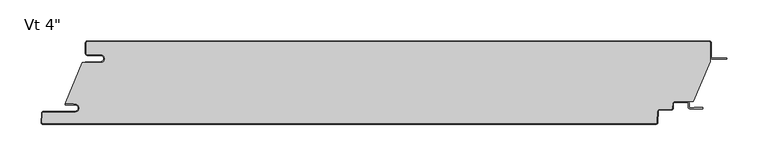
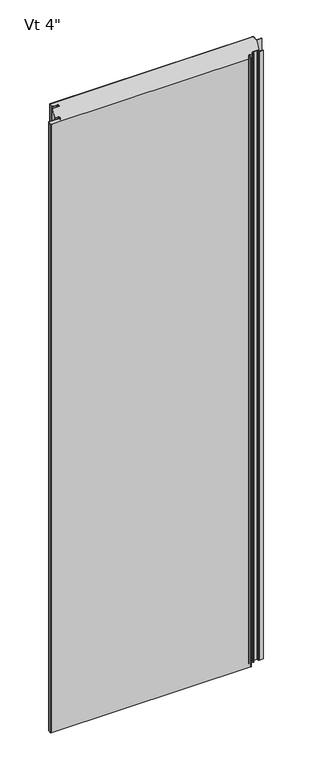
"""IFC4 building model written with IfcOpenShell, lengths in millimetres: plate geometry."""

from ifc_helpers import new_model, si_unit, point, frame, frame_2d, origin, origin_with_axes, place, context, project, spatial, polyline, circle_curve, ellipse_curve, trimmed, segment, composite_curve, outline, extrude, source, transform, mapped, element, save
from ifc_brep_helpers import plane_surface, cylinder_surface, revolved_surface, extruded_surface, advanced_brep


def plate_11812fda(model_context):
    return source(origin(), model_context, "Body", "SolidModel", [
        extrude(outline(composite_curve([segment(polyline([(-361.94375, -16.4625), (-377.81875, -16.4625)]), True, "CONTINUOUS"), segment(trimmed(circle_curve(frame_2d((-377.81875, -15.08125)), 1.38125), [point((-377.81875, -16.4625))], [point((-379.2, -15.08125))], False, "CARTESIAN"), True, "CONTINUOUS"), segment(polyline([(-379.2, -15.08125), (-379.2, -2.38125)]), True, "CONTINUOUS"), segment(trimmed(circle_curve(frame_2d((-377.81875, -2.38125)), 1.38125), [point((-379.2, -2.38125))], [point((-377.81875, -1.0))], False, "CARTESIAN"), True, "CONTINUOUS"), segment(polyline([(-377.81875, -1.0), (377.83125, -1.0)]), True, "CONTINUOUS"), segment(trimmed(circle_curve(frame_2d((377.83125, -2.38125)), 1.38125), [point((377.83125, -1.0))], [point((379.2125, -2.38125))], False, "CARTESIAN"), True, "CONTINUOUS"), segment(polyline([(379.2125, -2.38125), (379.2125, -24.9057308), (358.3955434, -73.6125), (335.9540783, -73.6125)]), True, "CONTINUOUS"), segment(trimmed(circle_curve(frame_2d((335.9540783, -76.2)), 2.5875), [point((335.9540783, -73.6125))], [point((333.3701244, -76.0645807))], True, "CARTESIAN"), True, "CONTINUOUS"), segment(polyline([(333.3701244, -76.0645807), (333.0680481, -81.828539)]), True, "CONTINUOUS"), segment(trimmed(circle_curve(frame_2d((331.6886911, -81.75625)), 1.38125), [point((333.0680481, -81.828539))], [point((331.6886911, -83.1375))], False, "CARTESIAN"), True, "CONTINUOUS"), segment(polyline([(331.6886911, -83.1375), (317.5323847, -83.1375)]), True, "CONTINUOUS"), segment(trimmed(circle_curve(frame_2d((317.5323847, -85.725)), 2.5875), [point((317.5323847, -83.1375))], [point((314.9484307, -85.5895807))], True, "CARTESIAN"), True, "CONTINUOUS"), segment(polyline([(314.9484307, -85.5895807), (314.2303677, -99.291039)]), True, "CONTINUOUS"), segment(trimmed(circle_curve(frame_2d((312.8510107, -99.21875)), 1.38125), [point((314.2303677, -99.291039))], [point((312.8510107, -100.6))], False, "CARTESIAN"), True, "CONTINUOUS"), segment(polyline([(312.8510107, -100.6), (-431.6799535, -100.6)]), True, "CONTINUOUS"), segment(trimmed(circle_curve(frame_2d((-431.6799535, -99.21875)), 1.38125), [point((-431.6799535, -100.6))], [point((-433.0593106, -99.146461))], False, "CARTESIAN"), True, "CONTINUOUS"), segment(polyline([(-433.0593106, -99.146461), (-432.4769291, -88.033961)]), True, "CONTINUOUS"), segment(trimmed(circle_curve(frame_2d((-431.0975721, -88.10625)), 1.38125), [point((-432.4769291, -88.033961))], [point((-431.0975721, -86.725))], False, "CARTESIAN"), True, "CONTINUOUS"), segment(polyline([(-431.0975721, -86.725), (-392.9142674, -86.725)]), True, "CONTINUOUS"), segment(trimmed(circle_curve(frame_2d((-392.9142674, -81.75625)), 4.96875), [point((-392.9142674, -86.725))], [point((-392.9142674, -76.7875))], True, "CARTESIAN"), True, "CONTINUOUS"), segment(polyline([(-392.9142674, -76.7875), (-394.5017674, -76.99375), (-394.5017674, -76.2), (-404.0125, -76.2), (-404.0125, -74.6157227), (-384.1260922, -26.4), (-361.94375, -26.4)]), True, "CONTINUOUS"), segment(trimmed(circle_curve(frame_2d((-361.94375, -21.43125)), 4.96875), [point((-361.94375, -26.4))], [point((-361.94375, -16.4625))], True, "CARTESIAN"), True, "CONTINUOUS")], self_intersect=False)), origin_with_axes(), (0.0, 0.0, 1.0), 2400.0),
        extrude(outline(composite_curve([segment(polyline([(-380.2, -25.4), (-361.94375, -25.4)]), True, "CONTINUOUS"), segment(trimmed(circle_curve(frame_2d((-361.94375, -21.43125)), 3.96875), [point((-361.94375, -25.4))], [point((-361.94375, -17.4625))], True, "CARTESIAN"), True, "CONTINUOUS"), segment(polyline([(-361.94375, -17.4625), (-377.81875, -17.4625)]), True, "CONTINUOUS"), segment(trimmed(circle_curve(frame_2d((-377.81875, -15.08125)), 2.38125), [point((-377.81875, -17.4625))], [point((-380.2, -15.08125))], False, "CARTESIAN"), True, "CONTINUOUS"), segment(polyline([(-380.2, -15.08125), (-380.2, -2.38125)]), True, "CONTINUOUS"), segment(trimmed(circle_curve(frame_2d((-377.81875, -2.38125)), 2.38125), [point((-380.2, -2.38125))], [point((-377.81875, 0.0))], False, "CARTESIAN"), True, "CONTINUOUS"), segment(polyline([(-377.81875, 0.0), (377.83125, 0.0)]), True, "CONTINUOUS"), segment(trimmed(circle_curve(frame_2d((377.83125, -2.38125)), 2.38125), [point((377.83125, 0.0))], [point((380.2125, -2.38125))], False, "CARTESIAN"), True, "CONTINUOUS"), segment(polyline([(380.2125, -2.38125), (380.2125, -19.446875)]), True, "CONTINUOUS"), segment(trimmed(circle_curve(frame_2d((381.8, -19.446875)), 1.5875), [point((380.2125, -19.446875))], [point((381.8, -21.034375))], True, "CARTESIAN"), True, "CONTINUOUS"), segment(polyline([(381.8, -21.034375), (399.2625, -21.034375), (399.2625, -22.034375), (381.8, -22.034375)]), True, "CONTINUOUS"), segment(trimmed(circle_curve(frame_2d((381.8, -19.446875)), 2.5875), [point((381.8, -22.034375))], [point((379.2125, -19.446875))], False, "CARTESIAN"), True, "CONTINUOUS"), segment(polyline([(379.2125, -19.446875), (379.2125, -2.38125)]), True, "CONTINUOUS"), segment(trimmed(circle_curve(frame_2d((377.83125, -2.38125)), 1.38125), [point((379.2125, -2.38125))], [point((377.83125, -1.0))], True, "CARTESIAN"), True, "CONTINUOUS"), segment(polyline([(377.83125, -1.0), (-377.81875, -1.0)]), True, "CONTINUOUS"), segment(trimmed(circle_curve(frame_2d((-377.81875, -2.38125)), 1.38125), [point((-377.81875, -1.0))], [point((-379.2, -2.38125))], True, "CARTESIAN"), True, "CONTINUOUS"), segment(polyline([(-379.2, -2.38125), (-379.2, -15.08125)]), True, "CONTINUOUS"), segment(trimmed(circle_curve(frame_2d((-377.81875, -15.08125)), 1.38125), [point((-379.2, -15.08125))], [point((-377.81875, -16.4625))], True, "CARTESIAN"), True, "CONTINUOUS"), segment(polyline([(-377.81875, -16.4625), (-361.94375, -16.4625)]), True, "CONTINUOUS"), segment(trimmed(circle_curve(frame_2d((-361.94375, -21.43125)), 4.96875), [point((-361.94375, -16.4625))], [point((-361.94375, -26.4))], False, "CARTESIAN"), True, "CONTINUOUS"), segment(polyline([(-361.94375, -26.4), (-380.2, -26.4), (-380.2, -25.4)]), True, "CONTINUOUS")], self_intersect=False)), origin_with_axes(), (0.0, 0.0, 1.0), 2400.0),
        advanced_brep(
        [(-404.2252049, -76.2, 2400.0), (-404.2252049, -77.7875, 2400.0), (-392.9142674, -77.7875, 2400.0), (-392.9142674, -85.725, 2400.0), (-431.0975721, -85.725, 2400.0), (-433.4755586, -87.981625, 2400.0), (-434.0579401, -99.094125, 2400.0), (-431.6799535, -101.6, 2400.0), (312.8510107, -101.6, 2400.0), (315.2289973, -99.343375, 2400.0), (315.9470603, -85.6419167, 2400.0), (317.5323847, -84.1375, 2400.0), (331.6886911, -84.1375, 2400.0), (334.0666776, -81.880875, 2400.0), (334.3687539, -76.1169167, 2400.0), (335.9540783, -74.6125, 2400.0), (350.8294826, -74.6125, 2400.0), (352.4169826, -76.2, 2400.0), (352.4169826, -80.3671875, 2400.0), (354.7982326, -82.7484375, 2400.0), (369.2898532, -82.7484375, 2400.0), (369.2898532, -80.9546875, 2400.0), (359.5607326, -80.9546875, 2400.0), (359.5607326, -81.7484375, 2400.0), (354.7982326, -81.7484375, 2400.0), (353.4169826, -80.3671875, 2400.0), (353.4169826, -76.2, 2400.0), (350.8294826, -73.6125, 2400.0), (335.9540783, -73.6125, 2400.0), (333.3701244, -76.0645807, 2400.0), (333.0680481, -81.828539, 2400.0), (331.6886911, -83.1375, 2400.0), (317.5323847, -83.1375, 2400.0), (314.9484307, -85.5895807, 2400.0), (314.2303677, -99.291039, 2400.0), (312.8510107, -100.6, 2400.0), (-431.6799535, -100.6, 2400.0), (-433.0593106, -99.146461, 2400.0), (-432.4769291, -88.033961, 2400.0), (-431.0975721, -86.725, 2400.0), (-392.9142674, -86.725, 2400.0), (-392.9142674, -76.7875, 2400.0), (-394.5017674, -76.99375, 2400.0), (-394.5017674, -76.2, 2400.0), (-404.2252049, -76.2, 0.0), (-394.5017674, -76.2, 0.0), (-394.5017674, -76.99375, 0.0), (-392.9142674, -76.7875, 0.0), (-392.9142674, -86.725, 0.0), (-431.0975721, -86.725, 0.0), (-432.4769291, -88.033961, 0.0), (-433.0593106, -99.146461, 0.0), (-431.6799535, -100.6, 0.0), (312.8510107, -100.6, 0.0), (314.2303677, -99.291039, 0.0), (314.9484307, -85.5895807, 0.0), (317.5323847, -83.1375, 0.0), (331.6886911, -83.1375, 0.0), (333.0680481, -81.828539, 0.0), (333.3701244, -76.0645807, 0.0), (335.9540783, -73.6125, 0.0), (350.8294826, -73.6125, 0.0), (353.4169826, -76.2, 0.0), (353.4169826, -80.3671875, 0.0), (354.7982326, -81.7484375, 0.0), (359.5607326, -81.7484375, 0.0), (359.5607326, -80.9546875, 0.0), (369.2898532, -80.9546875, 0.0), (369.2898532, -82.7484375, 0.0), (354.7982326, -82.7484375, 0.0), (352.4169826, -80.3671875, 0.0), (352.4169826, -76.2, 0.0), (350.8294826, -74.6125, 0.0), (335.9540783, -74.6125, 0.0), (334.3687539, -76.1169167, 0.0), (334.0666776, -81.880875, 0.0), (331.6886911, -84.1375, 0.0), (317.5323847, -84.1375, 0.0), (315.9470603, -85.6419167, 0.0), (315.2289973, -99.343375, 0.0), (312.8510107, -101.6, 0.0), (-431.6799535, -101.6, 0.0), (-434.0579401, -99.094125, 0.0), (-433.4755586, -87.981625, 0.0), (-431.0975721, -85.725, 0.0), (-392.9142674, -85.725, 0.0), (-392.9142674, -77.7875, 0.0), (-404.2252049, -77.7875, 0.0)],
        [
            (0, 1, circle_curve(frame((-404.2252049, -76.99375, 2400.0), z_axis=(0.0, 0.0, 1.0), x_axis=(1.0, 0.0, 0.0)), 0.79375)),
            (1, 2),
            (2, 3, circle_curve(frame((-392.9142674, -81.75625, 2400.0), z_axis=(0.0, 0.0, -1.0), x_axis=(1.0, 0.0, 0.0)), 3.96875)),
            (3, 4),
            (4, 5, circle_curve(frame((-431.0975721, -88.10625, 2400.0), z_axis=(0.0, 0.0, 1.0), x_axis=(1.0, 0.0, 0.0)), 2.38125)),
            (5, 6),
            (6, 7, circle_curve(frame((-431.6799535, -99.21875, 2400.0), z_axis=(0.0, 0.0, 1.0), x_axis=(1.0, 0.0, 0.0)), 2.38125)),
            (7, 8),
            (8, 9, circle_curve(frame((312.8510107, -99.21875, 2400.0), z_axis=(0.0, 0.0, 1.0), x_axis=(1.0, 0.0, 0.0)), 2.38125)),
            (9, 10),
            (10, 11, circle_curve(frame((317.5323847, -85.725, 2400.0), z_axis=(0.0, 0.0, -1.0), x_axis=(1.0, 0.0, 0.0)), 1.5875)),
            (11, 12),
            (12, 13, circle_curve(frame((331.6886911, -81.75625, 2400.0), z_axis=(0.0, 0.0, 1.0), x_axis=(1.0, 0.0, 0.0)), 2.38125)),
            (13, 14),
            (14, 15, circle_curve(frame((335.9540783, -76.2, 2400.0), z_axis=(0.0, 0.0, -1.0), x_axis=(1.0, 0.0, 0.0)), 1.5875)),
            (15, 16),
            (16, 17, circle_curve(frame((350.8294826, -76.2, 2400.0), z_axis=(0.0, 0.0, -1.0), x_axis=(1.0, 0.0, 0.0)), 1.5875)),
            (17, 18),
            (18, 19, circle_curve(frame((354.7982326, -80.3671875, 2400.0), z_axis=(0.0, 0.0, 1.0), x_axis=(1.0, 0.0, 0.0)), 2.38125)),
            (19, 20),
            (20, 21, ellipse_curve(frame((369.2898532, -81.8515625, 2400.0), z_axis=(0.0, 0.0, 1.0), x_axis=(0.0, 1.0, 0.0)), 0.896875, 0.7852275)),
            (21, 22),
            (22, 23),
            (23, 24),
            (24, 25, circle_curve(frame((354.7982326, -80.3671875, 2400.0), z_axis=(0.0, 0.0, -1.0), x_axis=(1.0, 0.0, 0.0)), 1.38125)),
            (25, 26),
            (26, 27, circle_curve(frame((350.8294826, -76.2, 2400.0), z_axis=(0.0, 0.0, 1.0), x_axis=(1.0, 0.0, 0.0)), 2.5875)),
            (27, 28),
            (28, 29, circle_curve(frame((335.9540783, -76.2, 2400.0), z_axis=(0.0, 0.0, 1.0), x_axis=(1.0, 0.0, 0.0)), 2.5875)),
            (29, 30),
            (30, 31, circle_curve(frame((331.6886911, -81.75625, 2400.0), z_axis=(0.0, 0.0, -1.0), x_axis=(1.0, 0.0, 0.0)), 1.38125)),
            (31, 32),
            (32, 33, circle_curve(frame((317.5323847, -85.725, 2400.0), z_axis=(0.0, 0.0, 1.0), x_axis=(1.0, 0.0, 0.0)), 2.5875)),
            (33, 34),
            (34, 35, circle_curve(frame((312.8510107, -99.21875, 2400.0), z_axis=(0.0, 0.0, -1.0), x_axis=(1.0, 0.0, 0.0)), 1.38125)),
            (35, 36),
            (36, 37, circle_curve(frame((-431.6799535, -99.21875, 2400.0), z_axis=(0.0, 0.0, -1.0), x_axis=(1.0, 0.0, 0.0)), 1.38125)),
            (37, 38),
            (38, 39, circle_curve(frame((-431.0975721, -88.10625, 2400.0), z_axis=(0.0, 0.0, -1.0), x_axis=(1.0, 0.0, 0.0)), 1.38125)),
            (39, 40),
            (40, 41, circle_curve(frame((-392.9142674, -81.75625, 2400.0), z_axis=(0.0, 0.0, 1.0), x_axis=(1.0, 0.0, 0.0)), 4.96875)),
            (41, 42),
            (42, 43),
            (43, 0),
            (44, 45),
            (45, 46),
            (46, 47),
            (47, 48, circle_curve(frame((-392.9142674, -81.75625, 0.0), z_axis=(0.0, 0.0, -1.0), x_axis=(1.0, 0.0, 0.0)), 4.96875)),
            (48, 49),
            (49, 50, circle_curve(frame((-431.0975721, -88.10625, 0.0), z_axis=(0.0, 0.0, 1.0), x_axis=(1.0, 0.0, 0.0)), 1.38125)),
            (50, 51),
            (51, 52, circle_curve(frame((-431.6799535, -99.21875, 0.0), z_axis=(0.0, 0.0, 1.0), x_axis=(1.0, 0.0, 0.0)), 1.38125)),
            (52, 53),
            (53, 54, circle_curve(frame((312.8510107, -99.21875, 0.0), z_axis=(0.0, 0.0, 1.0), x_axis=(1.0, 0.0, 0.0)), 1.38125)),
            (54, 55),
            (55, 56, circle_curve(frame((317.5323847, -85.725, 0.0), z_axis=(0.0, 0.0, -1.0), x_axis=(1.0, 0.0, 0.0)), 2.5875)),
            (56, 57),
            (57, 58, circle_curve(frame((331.6886911, -81.75625, 0.0), z_axis=(0.0, 0.0, 1.0), x_axis=(1.0, 0.0, 0.0)), 1.38125)),
            (58, 59),
            (59, 60, circle_curve(frame((335.9540783, -76.2, 0.0), z_axis=(0.0, 0.0, -1.0), x_axis=(1.0, 0.0, 0.0)), 2.5875)),
            (60, 61),
            (61, 62, circle_curve(frame((350.8294826, -76.2, 0.0), z_axis=(0.0, 0.0, -1.0), x_axis=(1.0, 0.0, 0.0)), 2.5875)),
            (62, 63),
            (63, 64, circle_curve(frame((354.7982326, -80.3671875, 0.0), z_axis=(0.0, 0.0, 1.0), x_axis=(1.0, 0.0, 0.0)), 1.38125)),
            (64, 65),
            (65, 66),
            (66, 67),
            (67, 68, ellipse_curve(frame((369.2898532, -81.8515625, 0.0), z_axis=(0.0, 0.0, -1.0), x_axis=(0.0, 1.0, 0.0)), 0.896875, 0.7852275)),
            (68, 69),
            (69, 70, circle_curve(frame((354.7982326, -80.3671875, 0.0), z_axis=(0.0, 0.0, -1.0), x_axis=(1.0, 0.0, 0.0)), 2.38125)),
            (70, 71),
            (71, 72, circle_curve(frame((350.8294826, -76.2, 0.0), z_axis=(0.0, 0.0, 1.0), x_axis=(1.0, 0.0, 0.0)), 1.5875)),
            (72, 73),
            (73, 74, circle_curve(frame((335.9540783, -76.2, 0.0), z_axis=(0.0, 0.0, 1.0), x_axis=(1.0, 0.0, 0.0)), 1.5875)),
            (74, 75),
            (75, 76, circle_curve(frame((331.6886911, -81.75625, 0.0), z_axis=(0.0, 0.0, -1.0), x_axis=(1.0, 0.0, 0.0)), 2.38125)),
            (76, 77),
            (77, 78, circle_curve(frame((317.5323847, -85.725, 0.0), z_axis=(0.0, 0.0, 1.0), x_axis=(1.0, 0.0, 0.0)), 1.5875)),
            (78, 79),
            (79, 80, circle_curve(frame((312.8510107, -99.21875, 0.0), z_axis=(0.0, 0.0, -1.0), x_axis=(1.0, 0.0, 0.0)), 2.38125)),
            (80, 81),
            (81, 82, circle_curve(frame((-431.6799535, -99.21875, 0.0), z_axis=(0.0, 0.0, -1.0), x_axis=(1.0, 0.0, 0.0)), 2.38125)),
            (82, 83),
            (83, 84, circle_curve(frame((-431.0975721, -88.10625, 0.0), z_axis=(0.0, 0.0, -1.0), x_axis=(1.0, 0.0, 0.0)), 2.38125)),
            (84, 85),
            (85, 86, circle_curve(frame((-392.9142674, -81.75625, 0.0), z_axis=(0.0, 0.0, 1.0), x_axis=(1.0, 0.0, 0.0)), 3.96875)),
            (86, 87),
            (87, 44, circle_curve(frame((-404.2252049, -76.99375, 0.0), z_axis=(0.0, 0.0, -1.0), x_axis=(1.0, 0.0, 0.0)), 0.79375)),
            (43, 45),
            (44, 0),
            (87, 1),
            (86, 2),
            (85, 3),
            (84, 4),
            (83, 5),
            (82, 6),
            (81, 7),
            (80, 8),
            (79, 9),
            (78, 10),
            (77, 11),
            (76, 12),
            (75, 13),
            (74, 14),
            (73, 15),
            (38, 50),
            (49, 39),
            (33, 55),
            (54, 34),
            (32, 56),
            (31, 57),
            (30, 58),
            (29, 59),
            (28, 60),
            (23, 65),
            (64, 24),
            (63, 25),
            (62, 26),
            (72, 16),
            (71, 17),
            (70, 18),
            (69, 19),
            (68, 20),
            (27, 61),
            (48, 40),
            (47, 41),
            (42, 46),
            (22, 66),
            (21, 67),
            (37, 51),
            (36, 52),
            (35, 53),
        ],
        [
            plane_surface(frame((0.00625, -101.6, 2400.0), z_axis=(0.0, 0.0, 1.0), x_axis=(0.0, -1.0, 0.0))),
            plane_surface(frame((0.00625, -101.6, 0.0), z_axis=(0.0, 0.0, -1.0), x_axis=(0.0, -1.0, 0.0))),
            plane_surface(frame((-404.2252049, -76.2, 2400.0), z_axis=(0.0, 1.0, 0.0), x_axis=(0.0, 0.0, -1.0))),
            cylinder_surface(frame((-404.2252049, -76.99375, 2400.0), z_axis=(0.0, 0.0, 1.0), x_axis=(1.0, 0.0, 0.0)), 0.79375),
            plane_surface(frame((-392.9142674, -77.7875, 2400.0), z_axis=(0.0, -1.0, 0.0), x_axis=(0.0, 0.0, -1.0))),
            revolved_surface(polyline([(-388.9455174, -81.75625, 0.0), (-388.9455174, -81.75625, 2400.0)]), (-392.9142674, -81.75625, 2400.0), (0.0, 0.0, -1.0)),
            plane_surface(frame((-431.0975721, -85.725, 2400.0), z_axis=(0.0, 1.0, 0.0), x_axis=(0.0, 0.0, -1.0))),
            cylinder_surface(frame((-431.0975721, -88.10625, 2400.0), z_axis=(0.0, 0.0, 1.0), x_axis=(1.0, 0.0, 0.0)), 2.38125),
            plane_surface(frame((-434.0579401, -99.094125, 2400.0), z_axis=(-0.9986295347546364, 0.05233595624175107, 0.0), x_axis=(0.0, 0.0, -1.0))),
            cylinder_surface(frame((-431.6799535, -99.21875, 2400.0), z_axis=(0.0, 0.0, 1.0), x_axis=(1.0, 0.0, 0.0)), 2.38125),
            plane_surface(frame((312.8510107, -101.6, 2400.0), z_axis=(0.0, -1.0, 0.0), x_axis=(0.0, 0.0, -1.0))),
            cylinder_surface(frame((312.8510107, -99.21875, 2400.0), z_axis=(0.0, 0.0, 1.0), x_axis=(1.0, 0.0, 0.0)), 2.38125),
            plane_surface(frame((315.9470603, -85.6419167, 2400.0), z_axis=(0.9986295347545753, -0.05233595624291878, 0.0), x_axis=(0.0, 0.0, -1.0))),
            revolved_surface(polyline([(319.1198847, -85.725, 0.0), (319.1198847, -85.725, 2400.0)]), (317.5323847, -85.725, 2400.0), (0.0, 0.0, -1.0)),
            plane_surface(frame((331.6886911, -84.1375, 2400.0), z_axis=(0.0, -1.0, 0.0), x_axis=(0.0, 0.0, -1.0))),
            cylinder_surface(frame((331.6886911, -81.75625, 2400.0), z_axis=(0.0, 0.0, 1.0), x_axis=(1.0, 0.0, 0.0)), 2.38125),
            plane_surface(frame((334.3687539, -76.1169167, 2400.0), z_axis=(0.9986295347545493, -0.052335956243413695, 0.0), x_axis=(0.0, 0.0, -1.0))),
            revolved_surface(polyline([(337.54157829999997, -76.2, 0.0), (337.54157829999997, -76.2, 2400.0)]), (335.9540783, -76.2, 2400.0), (0.0, 0.0, -1.0)),
            revolved_surface(polyline([(-429.71632209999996, -88.10625, 0.0), (-429.71632209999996, -88.10625, 2400.0)]), (-431.0975721, -88.10625, 2400.0), (0.0, 0.0, -1.0)),
            plane_surface(frame((314.2303677, -99.291039, 2400.0), z_axis=(-0.9986295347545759, 0.052335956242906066, 0.0), x_axis=(0.0, 0.0, -1.0))),
            cylinder_surface(frame((317.5323847, -85.725, 2400.0), z_axis=(0.0, 0.0, 1.0), x_axis=(1.0, 0.0, 0.0)), 2.5875),
            plane_surface(frame((317.5323847, -83.1375, 2400.0), z_axis=(0.0, 1.0, 0.0), x_axis=(0.0, 0.0, -1.0))),
            revolved_surface(polyline([(333.06994110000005, -81.75625, 0.0), (333.06994110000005, -81.75625, 2400.0)]), (331.6886911, -81.75625, 2400.0), (0.0, 0.0, -1.0)),
            plane_surface(frame((333.0680481, -81.828539, 2400.0), z_axis=(-0.998629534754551, 0.05233595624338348, 0.0), x_axis=(0.0, 0.0, -1.0))),
            cylinder_surface(frame((335.9540783, -76.2, 2400.0), z_axis=(0.0, 0.0, 1.0), x_axis=(1.0, 0.0, 0.0)), 2.5875),
            plane_surface(frame((354.7982326, -81.7484375, 2400.0), z_axis=(0.0, 1.0, 0.0), x_axis=(0.0, 0.0, -1.0))),
            revolved_surface(polyline([(356.17948260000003, -80.3671875, 0.0), (356.17948260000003, -80.3671875, 2400.0)]), (354.7982326, -80.3671875, 2400.0), (0.0, 0.0, -1.0)),
            plane_surface(frame((353.4169826, -76.2, 2400.0), z_axis=(1.0, 0.0, 0.0), x_axis=(0.0, 0.0, -1.0))),
            plane_surface(frame((350.8294826, -74.6125, 2400.0), z_axis=(0.0, -1.0, 0.0), x_axis=(0.0, 0.0, -1.0))),
            revolved_surface(polyline([(352.4169826, -76.2, 0.0), (352.4169826, -76.2, 2400.0)]), (350.8294826, -76.2, 2400.0), (0.0, 0.0, -1.0)),
            plane_surface(frame((352.4169826, -80.3671875, 2400.0), z_axis=(-1.0, 0.0, 0.0), x_axis=(0.0, 0.0, -1.0))),
            cylinder_surface(frame((354.7982326, -80.3671875, 2400.0), z_axis=(0.0, 0.0, 1.0), x_axis=(1.0, 0.0, 0.0)), 2.38125),
            plane_surface(frame((369.2898532, -82.7484375, 2400.0), z_axis=(0.0, -1.0, 0.0), x_axis=(0.0, 0.0, -1.0))),
            plane_surface(frame((335.9540783, -73.6125, 2400.0), z_axis=(0.0, 1.0, 0.0), x_axis=(0.0, 0.0, -1.0))),
            cylinder_surface(frame((350.8294826, -76.2, 2400.0), z_axis=(0.0, 0.0, 1.0), x_axis=(1.0, 0.0, 0.0)), 2.5875),
            plane_surface(frame((-392.9142674, -86.725, 2400.0), z_axis=(0.0, -1.0, 0.0), x_axis=(0.0, 0.0, -1.0))),
            cylinder_surface(frame((-392.9142674, -81.75625, 2400.0), z_axis=(0.0, 0.0, 1.0), x_axis=(1.0, 0.0, 0.0)), 4.96875),
            plane_surface(frame((-394.5017674, -76.2, 2400.0), z_axis=(1.0, 0.0, 0.0), x_axis=(0.0, 0.0, -1.0))),
            plane_surface(frame((-394.5017674, -76.99375, 2400.0), z_axis=(-0.12883844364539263, 0.9916655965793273, 0.0), x_axis=(0.0, 0.0, -1.0))),
            plane_surface(frame((359.5607326, -81.7484375, 2400.0), z_axis=(-1.0, 0.0, 0.0), x_axis=(0.0, 0.0, -1.0))),
            plane_surface(frame((359.5607326, -80.9546875, 2400.0), z_axis=(0.0, 1.0, 0.0), x_axis=(0.0, 0.0, -1.0))),
            extruded_surface(trimmed(ellipse_curve(frame((369.2898532, -81.8515625, 2400.0), z_axis=(0.0, 0.0, -1.0), x_axis=(0.0, 1.0, 0.0)), 0.896875, 0.7852275), [point((369.2898532, -80.9546875, 2400.0))], [point((369.2898532, -82.7484375, 2400.0))], True, "CARTESIAN"), (0.0, 0.0, -2400.0), 2400.0),
            plane_surface(frame((-432.4769291, -88.033961, 2400.0), z_axis=(0.9986295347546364, -0.05233595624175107, 0.0), x_axis=(0.0, 0.0, -1.0))),
            revolved_surface(polyline([(-430.2987035, -99.21875, 0.0), (-430.2987035, -99.21875, 2400.0)]), (-431.6799535, -99.21875, 2400.0), (0.0, 0.0, -1.0)),
            plane_surface(frame((-431.6799535, -100.6, 2400.0), z_axis=(0.0, 1.0, 0.0), x_axis=(0.0, 0.0, -1.0))),
            revolved_surface(polyline([(314.23226070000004, -99.21875, 0.0), (314.23226070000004, -99.21875, 2400.0)]), (312.8510107, -99.21875, 2400.0), (0.0, 0.0, -1.0)),
        ],
        [
            (0, [[1, 2, 3, 4, 5, 6, 7, 8, 9, 10, 11, 12, 13, 14, 15, 16, 17, 18, 19, 20, 21, 22, 23, 24, 25, 26, 27, 28, 29, 30, 31, 32, 33, 34, 35, 36, 37, 38, 39, 40, 41, 42, 43, 44]]),
            (1, [[45, 46, 47, 48, 49, 50, 51, 52, 53, 54, 55, 56, 57, 58, 59, 60, 61, 62, 63, 64, 65, 66, 67, 68, 69, 70, 71, 72, 73, 74, 75, 76, 77, 78, 79, 80, 81, 82, 83, 84, 85, 86, 87, 88]]),
            (2, [[89, -45, 90, -44]]),
            (3, [[-90, -88, 91, -1]]),
            (4, [[-91, -87, 92, -2]]),
            (5, [[-92, -86, 93, -3]]),
            (6, [[-93, -85, 94, -4]]),
            (7, [[-94, -84, 95, -5]]),
            (8, [[-95, -83, 96, -6]]),
            (9, [[-96, -82, 97, -7]]),
            (10, [[-97, -81, 98, -8]]),
            (11, [[-98, -80, 99, -9]]),
            (12, [[-99, -79, 100, -10]]),
            (13, [[-100, -78, 101, -11]]),
            (14, [[-101, -77, 102, -12]]),
            (15, [[-102, -76, 103, -13]]),
            (16, [[-103, -75, 104, -14]]),
            (17, [[-104, -74, 105, -15]]),
            (18, [[106, -50, 107, -39]]),
            (19, [[108, -55, 109, -34]]),
            (20, [[110, -56, -108, -33]]),
            (21, [[111, -57, -110, -32]]),
            (22, [[112, -58, -111, -31]]),
            (23, [[113, -59, -112, -30]]),
            (24, [[114, -60, -113, -29]]),
            (25, [[115, -65, 116, -24]]),
            (26, [[-116, -64, 117, -25]]),
            (27, [[-117, -63, 118, -26]]),
            (28, [[-105, -73, 119, -16]]),
            (29, [[-119, -72, 120, -17]]),
            (30, [[-120, -71, 121, -18]]),
            (31, [[-121, -70, 122, -19]]),
            (32, [[-122, -69, 123, -20]]),
            (33, [[124, -61, -114, -28]]),
            (34, [[-118, -62, -124, -27]]),
            (35, [[-107, -49, 125, -40]]),
            (36, [[-125, -48, 126, -41]]),
            (37, [[127, -46, -89, -43]]),
            (38, [[-126, -47, -127, -42]]),
            (39, [[128, -66, -115, -23]]),
            (40, [[129, -67, -128, -22]]),
            (41, [[-123, -68, -129, -21]]),
            (42, [[130, -51, -106, -38]]),
            (43, [[131, -52, -130, -37]]),
            (44, [[132, -53, -131, -36]]),
            (45, [[-109, -54, -132, -35]]),
        ],
    ),
    ])


if __name__ == "__main__":
    model = new_model("IFC4")
    model_context = context("Model", 3, world=origin())
    ifc_project = project(units=[si_unit("LENGTHUNIT", "METRE", prefix="MILLI")], contexts=[model_context])
    site = spatial("IfcSite", under=ifc_project)
    building = spatial("IfcBuilding", under=site)
    placement = place(None, origin())
    plate_shape = plate_11812fda(model_context)
    element("IfcPlate", 1, ObjectType="KIP-30-DWHR-R19-CP-Vt-F : Vt 4\"", at=placement, inside=building, context=model_context, shape_type="MappedRepresentation", body=[
        mapped(plate_shape, transform((0.0, 0.0, 0.0), x_axis=(1.0, 0.0, 0.0), y_axis=(0.0, 1.0, 0.0), z_axis=(0.0, 0.0, 1.0))),
    ])
    save(model, "model.ifc")
